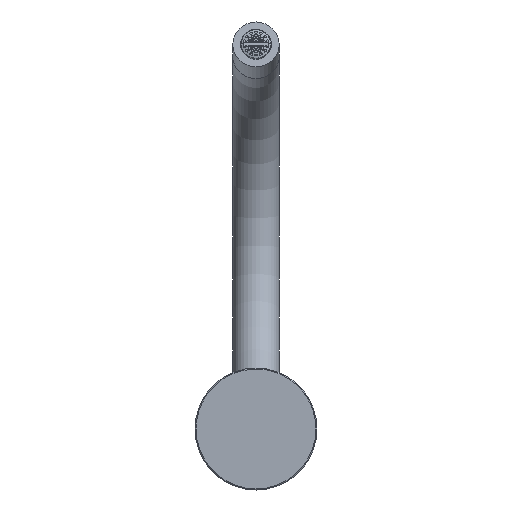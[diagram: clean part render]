
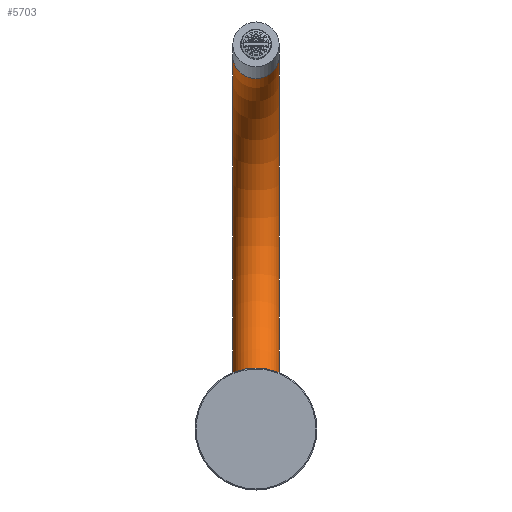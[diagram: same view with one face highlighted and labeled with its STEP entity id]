
A CAD part, front view. The second image highlights one B-rep face of the part: STEP entity #5703.
In plain terms, the highlighted toroidal (fillet/blend) face has major radius 90 mm and minor radius 11 mm.
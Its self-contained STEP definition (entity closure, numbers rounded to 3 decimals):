
#1487=CARTESIAN_POINT('',(-11.,418.32,90.));
#1488=DIRECTION('',(1.,0.,0.));
#1489=DIRECTION('',(0.,0.,-1.));
#1490=AXIS2_PLACEMENT_3D('',#1487,#1488,#1489);
#1497=CARTESIAN_POINT('',(11.,418.32,90.));
#1498=DIRECTION('',(-1.,0.,0.));
#1499=DIRECTION('',(0.,0.245,0.969));
#1500=AXIS2_PLACEMENT_3D('',#1497,#1498,#1499);
#1502=CARTESIAN_POINT('',(0.,440.401,
177.249));
#1503=DIRECTION('',(0.,-0.969,0.245));
#1504=DIRECTION('',(-1.,0.,0.));
#1505=AXIS2_PLACEMENT_3D('',#1502,#1503,#1504);
#1507=CARTESIAN_POINT('',(0.,418.32,0.));
#1508=DIRECTION('',(0.,-1.,0.));
#1509=DIRECTION('',(1.,0.,0.));
#1510=AXIS2_PLACEMENT_3D('',#1507,#1508,#1509);
#2998=CARTESIAN_POINT('',(-11.,418.32,0.));
#2999=CARTESIAN_POINT('',(-11.,440.401,177.249));
#3000=VERTEX_POINT('',#2998);
#3001=VERTEX_POINT('',#2999);
#3002=CARTESIAN_POINT('',(11.,418.32,0.));
#3003=VERTEX_POINT('',#3002);
#3004=CARTESIAN_POINT('',(11.,440.401,177.249));
#3005=VERTEX_POINT('',#3004);
#5691=CARTESIAN_POINT('',(0.,418.32,90.));
#5692=DIRECTION('',(1.,0.,0.));
#5693=DIRECTION('',(0.,0.,-1.));
#5694=AXIS2_PLACEMENT_3D('',#5691,#5692,#5693);
#5695=TOROIDAL_SURFACE('',#5694,90.,11.);
#5696=ORIENTED_EDGE('',*,*,#5658,.T.);
#5697=ORIENTED_EDGE('',*,*,#5686,.T.);
#5699=ORIENTED_EDGE('',*,*,#5698,.T.);
#5700=ORIENTED_EDGE('',*,*,#5682,.T.);
#5701=EDGE_LOOP('',(#5696,#5697,#5699,#5700));
#5702=FACE_OUTER_BOUND('',#5701,.F.);
#1491=CIRCLE('',#1490,90.);
#1501=CIRCLE('',#1500,90.);
#1506=CIRCLE('',#1505,11.);
#1511=CIRCLE('',#1510,11.);
#5658=EDGE_CURVE('',#3001,#3005,#1506,.T.);
#5682=EDGE_CURVE('',#3000,#3001,#1491,.T.);
#5686=EDGE_CURVE('',#3005,#3003,#1501,.T.);
#5698=EDGE_CURVE('',#3003,#3000,#1511,.T.);
#5703=ADVANCED_FACE('',(#5702),#5695,.T.);
